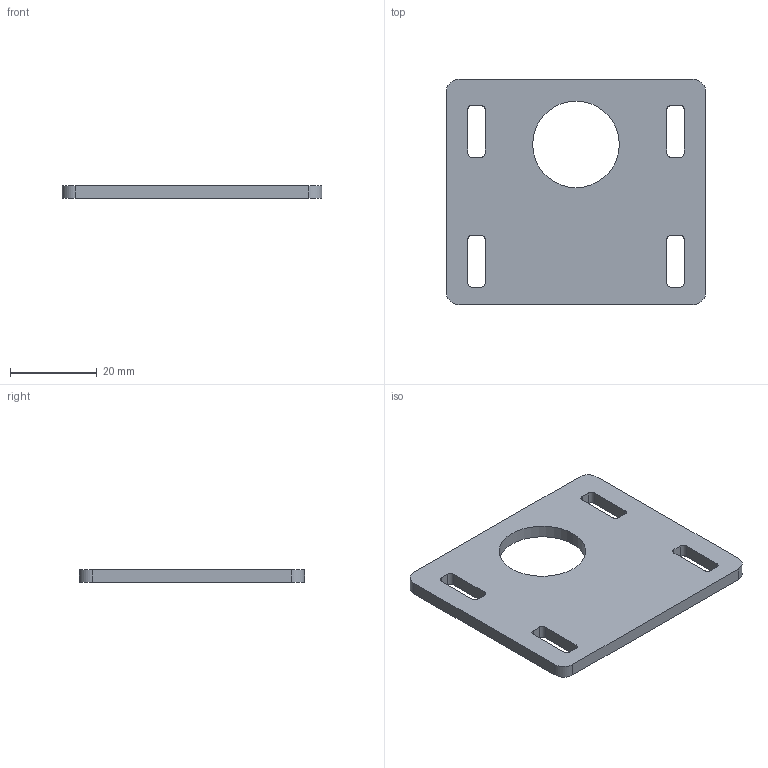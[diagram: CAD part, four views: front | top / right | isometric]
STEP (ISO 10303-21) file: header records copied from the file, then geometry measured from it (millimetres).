
FILE_DESCRIPTION(('Open CASCADE Model'),'2;1');
FILE_NAME('Open CASCADE Shape Model','2026-10-07T15:46:24',('Author'),( 'Open CASCADE'),'Open CASCADE STEP processor 7.9','Open CASCADE 7.9' ,'Unknown');
FILE_SCHEMA(('AUTOMOTIVE_DESIGN { 1 0 10303 214 1 1 1 1 }'));
Length unit declared in the file: millimetre
Products named in the file (1): Open CASCADE STEP translator 7.9 6
Bounding box: 60 x 52 x 3 mm (x, y, z)
Volume: 7828.6 mm3; surface area: 6427.5 mm2
Topology: 1 solids, 1 shells, 43 faces, 123 edges, 82 vertices
Faces by surface type: plane 22, cylinder 21
Full cylindrical faces by diameter (mm): 20 x1
Entity records: 3002 total; most frequent: CARTESIAN_POINT 595, DIRECTION 429, ORIENTED_EDGE 246, PCURVE 246, DEFINITIONAL_REPRESENTATION 246, LINE 221, VECTOR 221, EDGE_CURVE 123
